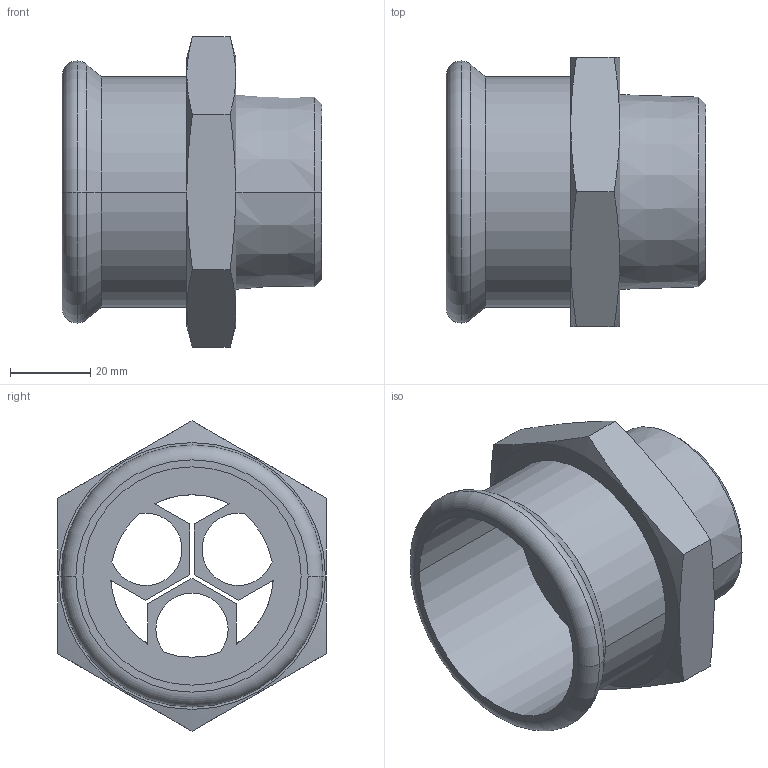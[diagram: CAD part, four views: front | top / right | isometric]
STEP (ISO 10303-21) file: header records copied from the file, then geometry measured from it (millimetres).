
FILE_DESCRIPTION(('OneSpaceDesigner STEP Export'),'2;1');
FILE_NAME('R2705 54xR1 1-2.stp','2010-06-09T11:23:48',(''),(''),'OneSpace Designer STEP processor for AP214 (Solid Model)','OneSpace Modeling 15.00A 14-Mar-2007 (C) CoCreate Software GmbH','');
FILE_SCHEMA(('AUTOMOTIVE_DESIGN { 1 0 10303 214 1 1 1 1 }'));
Length unit declared in the file: millimetre
Products named in the file (2): R2705_54xR1_1-2
Assembly tree (1 placements, depth 2):
  R2705_54xR1_1-2
    R2705_54xR1_1-2
Bounding box: 64.7 x 67 x 77.36 mm (x, y, z)
Volume: 51890.4 mm3; surface area: 28105.2 mm2
Topology: 1 solids, 1 shells, 52 faces, 142 edges, 92 vertices
Faces by surface type: plane 26, cylinder 12, cone 10, torus 4
Entity records: 2364 total; most frequent: CARTESIAN_POINT 1121, ORIENTED_EDGE 284, DIRECTION 204, EDGE_CURVE 142, VERTEX_POINT 92, VECTOR 70, LINE 70, AXIS2_PLACEMENT_3D 67
